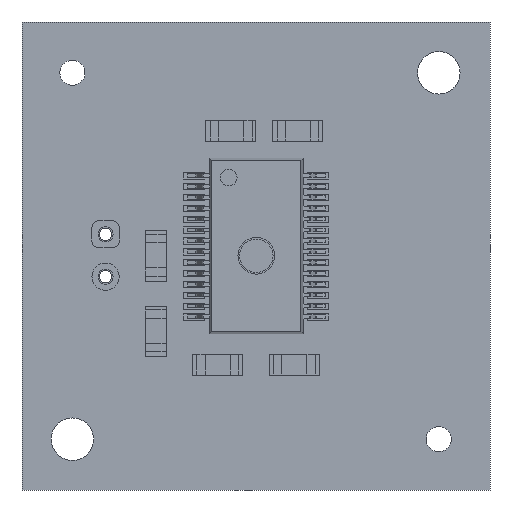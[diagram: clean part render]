
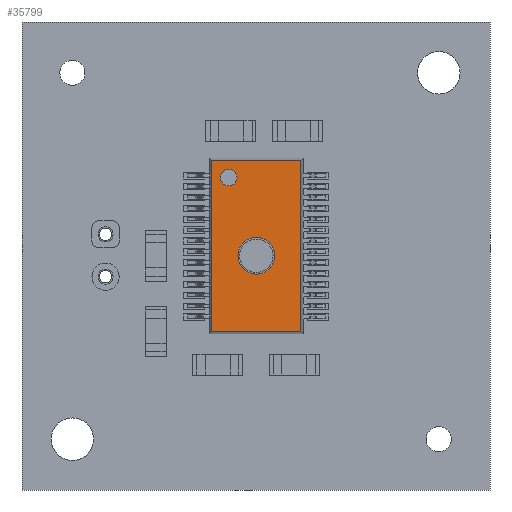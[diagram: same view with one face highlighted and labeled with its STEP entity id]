
A CAD part, front view. The second image highlights one B-rep face of the part: STEP entity #35799.
In plain terms, the highlighted planar face has unit normal (0, -1, 0).
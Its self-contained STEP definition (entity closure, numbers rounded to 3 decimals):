
#785 = AXIS2_PLACEMENT_3D ( 'NONE', #10926, #54699, #15175 ) ;
#833 = VERTEX_POINT ( 'NONE', #19122 ) ;
#926 = DIRECTION ( 'NONE',  ( 0., 0., -1. ) ) ;
#1063 = CARTESIAN_POINT ( 'NONE',  ( -11.313, -3.531, -5.578 ) ) ;
#1409 = LINE ( 'NONE', #1995, #12408 ) ;
#1995 = CARTESIAN_POINT ( 'NONE',  ( -11.182, -3.531, -5.709 ) ) ;
#4069 = DIRECTION ( 'NONE',  ( 0., 0., -1. ) ) ;
#4752 = DIRECTION ( 'NONE',  ( 0., -1., 0. ) ) ;
#4925 = VERTEX_POINT ( 'NONE', #41435 ) ;
#6580 = DIRECTION ( 'NONE',  ( 0., 0., -1. ) ) ;
#6888 = VERTEX_POINT ( 'NONE', #10084 ) ;
#7823 = VERTEX_POINT ( 'NONE', #50765 ) ;
#8088 = ORIENTED_EDGE ( 'NONE', *, *, #55347, .T. ) ;
#10053 = DIRECTION ( 'NONE',  ( 0., 0., 1. ) ) ;
#10084 = CARTESIAN_POINT ( 'NONE',  ( -15.635, -3.531, -6.225 ) ) ;
#10695 = CARTESIAN_POINT ( 'NONE',  ( -15.635, -3.531, -6.725 ) ) ;
#10902 = LINE ( 'NONE', #1063, #35698 ) ;
#10926 = CARTESIAN_POINT ( 'NONE',  ( -13.982, -3.531, -11.398 ) ) ;
#12408 = VECTOR ( 'NONE', #28886, 1000. ) ;
#12807 = LINE ( 'NONE', #23933, #47232 ) ;
#13507 = AXIS2_PLACEMENT_3D ( 'NONE', #26661, #4752, #17840 ) ;
#13667 = CARTESIAN_POINT ( 'NONE',  ( -17.091, -3.531, -5.011 ) ) ;
#15175 = DIRECTION ( 'NONE',  ( 0., 0., -1. ) ) ;
#15396 = CARTESIAN_POINT ( 'NONE',  ( -16.651, -3.531, -5.709 ) ) ;
#15442 = EDGE_CURVE ( 'NONE', #39374, #7823, #21818, .T. ) ;
#17550 = EDGE_CURVE ( 'NONE', #4925, #22633, #34693, .T. ) ;
#17840 = DIRECTION ( 'NONE',  ( 0., 0., -1. ) ) ;
#19122 = CARTESIAN_POINT ( 'NONE',  ( -11.313, -3.531, -15.948 ) ) ;
#21818 = LINE ( 'NONE', #50301, #27346 ) ;
#22305 = PLANE ( 'NONE',  #42742 ) ;
#22633 = VERTEX_POINT ( 'NONE', #46397 ) ;
#23192 = CARTESIAN_POINT ( 'NONE',  ( -15.635, -3.531, -6.725 ) ) ;
#23352 = EDGE_LOOP ( 'NONE', ( #53569, #27005 ) ) ;
#23825 = ORIENTED_EDGE ( 'NONE', *, *, #42537, .T. ) ;
#23933 = CARTESIAN_POINT ( 'NONE',  ( -11.182, -3.531, -15.948 ) ) ;
#24719 = CIRCLE ( 'NONE', #28552, 0.5 ) ;
#26104 = ORIENTED_EDGE ( 'NONE', *, *, #26475, .T. ) ;
#26475 = EDGE_CURVE ( 'NONE', #833, #44536, #10902, .T. ) ;
#26661 = CARTESIAN_POINT ( 'NONE',  ( -13.982, -3.531, -11.398 ) ) ;
#27005 = ORIENTED_EDGE ( 'NONE', *, *, #51903, .F. ) ;
#27346 = VECTOR ( 'NONE', #6580, 1000. ) ;
#28552 = AXIS2_PLACEMENT_3D ( 'NONE', #23192, #31489, #926 ) ;
#28886 = DIRECTION ( 'NONE',  ( -1., 0., 0. ) ) ;
#30792 = DIRECTION ( 'NONE',  ( 0., -1., 0. ) ) ;
#31489 = DIRECTION ( 'NONE',  ( 0., 1., 0. ) ) ;
#32603 = DIRECTION ( 'NONE',  ( 1., 0., 0. ) ) ;
#33076 = FACE_BOUND ( 'NONE', #47818, .T. ) ;
#34414 = FACE_OUTER_BOUND ( 'NONE', #54983, .T. ) ;
#34693 = CIRCLE ( 'NONE', #13507, 1.1 ) ;
#35698 = VECTOR ( 'NONE', #10053, 1000. ) ;
#35799 = ADVANCED_FACE ( 'NONE', ( #40659, #33076, #34414 ), #22305, .T. ) ;
#37461 = VERTEX_POINT ( 'NONE', #52210 ) ;
#38633 = CIRCLE ( 'NONE', #785, 1.1 ) ;
#39374 = VERTEX_POINT ( 'NONE', #15396 ) ;
#40172 = ORIENTED_EDGE ( 'NONE', *, *, #15442, .T. ) ;
#40326 = CIRCLE ( 'NONE', #41830, 0.5 ) ;
#40447 = EDGE_CURVE ( 'NONE', #44536, #39374, #1409, .T. ) ;
#40645 = ORIENTED_EDGE ( 'NONE', *, *, #40447, .T. ) ;
#40659 = FACE_BOUND ( 'NONE', #23352, .T. ) ;
#41336 = DIRECTION ( 'NONE',  ( 0., 1., 0. ) ) ;
#41435 = CARTESIAN_POINT ( 'NONE',  ( -13.982, -3.531, -12.498 ) ) ;
#41830 = AXIS2_PLACEMENT_3D ( 'NONE', #10695, #41336, #45968 ) ;
#42537 = EDGE_CURVE ( 'NONE', #7823, #833, #12807, .T. ) ;
#42742 = AXIS2_PLACEMENT_3D ( 'NONE', #13667, #30792, #4069 ) ;
#44536 = VERTEX_POINT ( 'NONE', #53658 ) ;
#45968 = DIRECTION ( 'NONE',  ( 0., 0., -1. ) ) ;
#46397 = CARTESIAN_POINT ( 'NONE',  ( -13.982, -3.531, -10.298 ) ) ;
#47232 = VECTOR ( 'NONE', #32603, 1000. ) ;
#47818 = EDGE_LOOP ( 'NONE', ( #8088, #54856 ) ) ;
#48249 = EDGE_CURVE ( 'NONE', #6888, #37461, #24719, .T. ) ;
#50301 = CARTESIAN_POINT ( 'NONE',  ( -16.651, -3.531, -5.578 ) ) ;
#50765 = CARTESIAN_POINT ( 'NONE',  ( -16.651, -3.531, -15.948 ) ) ;
#51903 = EDGE_CURVE ( 'NONE', #22633, #4925, #38633, .T. ) ;
#52210 = CARTESIAN_POINT ( 'NONE',  ( -15.635, -3.531, -7.225 ) ) ;
#53569 = ORIENTED_EDGE ( 'NONE', *, *, #17550, .F. ) ;
#53658 = CARTESIAN_POINT ( 'NONE',  ( -11.313, -3.531, -5.709 ) ) ;
#54699 = DIRECTION ( 'NONE',  ( 0., -1., 0. ) ) ;
#54856 = ORIENTED_EDGE ( 'NONE', *, *, #48249, .T. ) ;
#54983 = EDGE_LOOP ( 'NONE', ( #40645, #40172, #23825, #26104 ) ) ;
#55347 = EDGE_CURVE ( 'NONE', #37461, #6888, #40326, .T. ) ;
